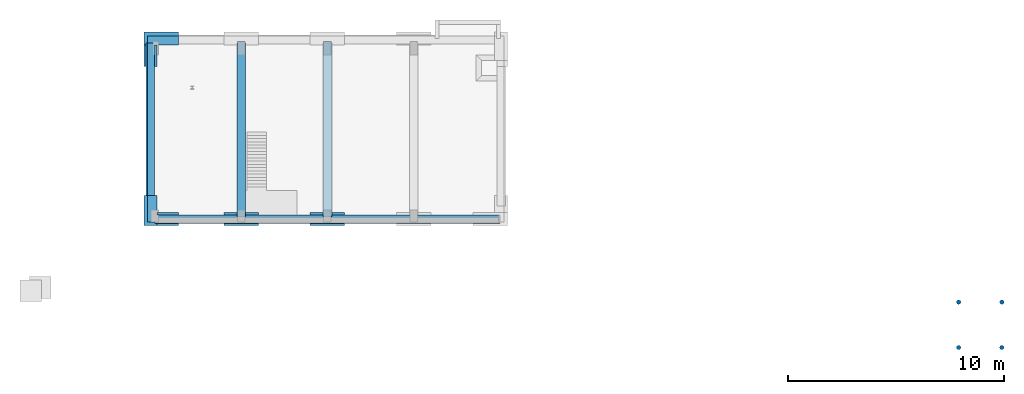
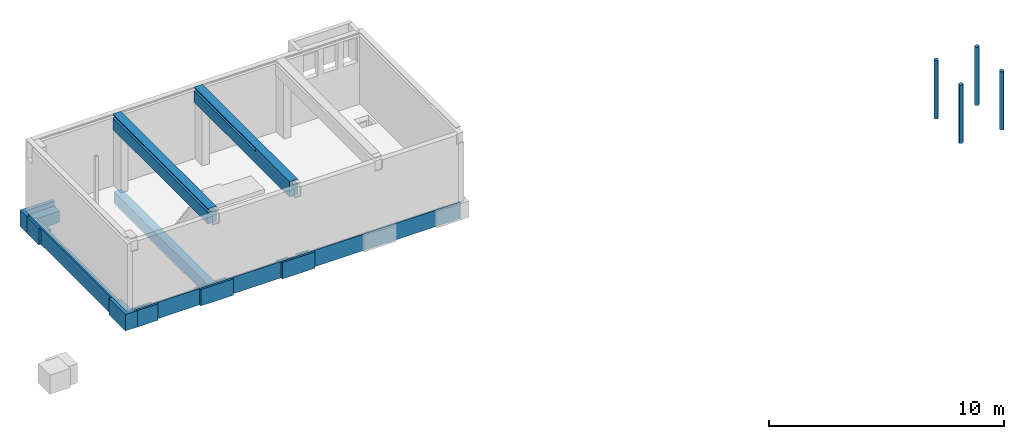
# One storey, part 2 of 5: 11 beams, 4 columns.
"""IFC2X3 building model written with IfcOpenShell, lengths in millimetres."""

from ifc_helpers import new_model, entity, si_unit, converted_unit, derived_unit, money_unit, direction, frame, origin_with_axes, place, context, subcontext, project, spatial, faceted_brep, material, type_object, element, save


model = new_model("IFC2X3")

# Units and contexts
model_context = context("Model", 3, precision=0.01, world=origin_with_axes(), true_north=direction((0.0, 1.0)))
body_context = subcontext(model_context, "Body", "Model", "MODEL_VIEW")
ifc_project = project(units=[si_unit("LENGTHUNIT", "METRE", prefix="MILLI"), si_unit("AREAUNIT", "SQUARE_METRE"), si_unit("VOLUMEUNIT", "CUBIC_METRE"), converted_unit("PLANEANGLEUNIT", "DEGREE", entity("IfcPlaneAngleMeasure", 0.0174532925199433), si_unit("PLANEANGLEUNIT", "RADIAN"), dimensions=[0, 0, 0, 0, 0, 0, 0]), money_unit("EUR"), converted_unit("TIMEUNIT", "Year", entity("IfcTimeMeasure", 31557600.0), si_unit("TIMEUNIT", "SECOND"), dimensions=[0, 0, 1, 0, 0, 0, 0]), si_unit("MASSUNIT", "GRAM", prefix="KILO"), si_unit("THERMODYNAMICTEMPERATUREUNIT", "DEGREE_CELSIUS"), si_unit("LUMINOUSINTENSITYUNIT", "LUMEN"), si_unit("ENERGYUNIT", "JOULE", prefix="MEGA"), derived_unit("THERMALCONDUCTANCEUNIT", [(si_unit("POWERUNIT", "WATT"), 1), (si_unit("LENGTHUNIT", "METRE"), -1), (si_unit("THERMODYNAMICTEMPERATUREUNIT", "KELVIN"), -1)]), derived_unit("SPECIFICHEATCAPACITYUNIT", [(si_unit("ENERGYUNIT", "JOULE"), 1), (si_unit("MASSUNIT", "GRAM", prefix="KILO"), -1), (si_unit("THERMODYNAMICTEMPERATUREUNIT", "KELVIN"), -1)]), derived_unit("MASSDENSITYUNIT", [(si_unit("MASSUNIT", "GRAM", prefix="KILO"), 1), (si_unit("VOLUMEUNIT", "CUBIC_METRE"), -1)])], contexts=[model_context])

# Site, building, storey
site_placement = place(None, origin_with_axes())
site = spatial("IfcSite", under=ifc_project, at=site_placement, Name="<site naam>", CompositionType="ELEMENT")
building_placement = place(site_placement, origin_with_axes())
building = spatial("IfcBuilding", under=site, at=building_placement, Name="<Naam gebouw>", CompositionType="ELEMENT")
storey_placement = place(building_placement, frame((0.0, 0.0, -3730.0), z_axis=(0.0, 0.0, 1.0), x_axis=(1.0, 0.0, 0.0)))
storey = spatial("IfcBuildingStorey", under=building, at=storey_placement, Name="Kelder", CompositionType="ELEMENT", Elevation=-3730.0)

# Columns
ifc_material_1 = material(Name="betonblok C")
column_type = type_object("IfcColumnType", Name="betonblok C D200", PredefinedType="COLUMN")
column_1_placement = place(storey_placement, frame((49251.00000000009, 8000.000000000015, -849.9808156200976), z_axis=(0.0, 0.0, 1.0), x_axis=(1.0, 0.0, 0.0)))
element("IfcColumn", 1, at=column_1_placement, inside=storey, type_object=column_type, material=ifc_material_1, Name="28_Kolom_betonblok", ObjectType="COLUMN", context=body_context, shape_type="Brep", body=[
    faceted_brep([(-96.59258262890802, -25.88190451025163, 3029.980815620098), (-100.0000000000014, 0.0, 3029.980815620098), (-100.0000000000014, 0.0, 0.0), (-96.59258262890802, -25.88190451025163, 0.0), (-86.6025403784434, 50.00000000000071, 3029.980815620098), (-96.59258262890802, 25.88190451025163, 3029.980815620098), (-86.6025403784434, -49.99999999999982, 3029.980815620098), (-70.71067811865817, -70.71067811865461, 3029.980815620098), (-49.99999999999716, -86.6025403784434, 3029.980815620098), (-25.88190451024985, -96.59258262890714, 3029.980815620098), (0.0, -99.99999999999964, 3029.980815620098), (25.88190451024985, -96.59258262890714, 3029.980815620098), (49.99999999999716, -86.60254037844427, 3029.980815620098), (70.71067811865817, -70.71067811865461, 3029.980815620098), (86.6025403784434, -49.99999999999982, 3029.980815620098), (96.59258262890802, -25.88190451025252, 3029.980815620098), (100.0000000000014, 0.0, 3029.980815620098), (96.59258262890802, 25.88190451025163, 3029.980815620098), (86.6025403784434, 50.00000000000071, 3029.980815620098), (70.71067811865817, 70.71067811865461, 3029.980815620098), (49.99999999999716, 86.6025403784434, 3029.980815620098), (25.88190451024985, 96.59258262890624, 3029.980815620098), (0.0, 99.99999999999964, 3029.980815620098), (-25.88190451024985, 96.59258262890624, 3029.980815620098), (-49.99999999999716, 86.6025403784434, 3029.980815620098), (-70.71067811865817, 70.71067811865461, 3029.980815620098), (-96.59258262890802, 25.88190451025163, 0.0), (-86.6025403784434, -49.99999999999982, 0.0), (-86.6025403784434, 50.00000000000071, 0.0), (-70.71067811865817, 70.71067811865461, 0.0), (-49.99999999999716, 86.6025403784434, 0.0), (-25.88190451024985, 96.59258262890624, 0.0), (0.0, 99.99999999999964, 0.0), (25.88190451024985, 96.59258262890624, 0.0), (49.99999999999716, 86.6025403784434, 0.0), (70.71067811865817, 70.71067811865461, 0.0), (86.6025403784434, 50.00000000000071, 0.0), (96.59258262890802, 25.88190451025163, 0.0), (100.0000000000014, 0.0, 0.0), (96.59258262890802, -25.88190451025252, 0.0), (86.6025403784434, -49.99999999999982, 0.0), (70.71067811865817, -70.71067811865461, 0.0), (49.99999999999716, -86.60254037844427, 0.0), (25.88190451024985, -96.59258262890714, 0.0), (0.0, -99.99999999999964, 0.0), (-25.88190451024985, -96.59258262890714, 0.0), (-49.99999999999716, -86.6025403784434, 0.0), (-70.71067811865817, -70.71067811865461, 0.0)], [[[0, 1, 2, 3]], [[4, 5, 1, 0, 6, 7, 8, 9, 10, 11, 12, 13, 14, 15, 16, 17, 18, 19, 20, 21, 22, 23, 24, 25]], [[1, 5, 26, 2]], [[27, 3, 2, 26, 28, 29, 30, 31, 32, 33, 34, 35, 36, 37, 38, 39, 40, 41, 42, 43, 44, 45, 46, 47]], [[6, 0, 3, 27]], [[5, 4, 28, 26]], [[7, 6, 27, 47]], [[8, 7, 47, 46]], [[9, 8, 46, 45]], [[10, 9, 45, 44]], [[11, 10, 44, 43]], [[12, 11, 43, 42]], [[13, 12, 42, 41]], [[14, 13, 41, 40]], [[15, 14, 40, 39]], [[16, 15, 39, 38]], [[17, 16, 38, 37]], [[18, 17, 37, 36]], [[19, 18, 36, 35]], [[20, 19, 35, 34]], [[21, 20, 34, 33]], [[22, 21, 33, 32]], [[23, 22, 32, 31]], [[24, 23, 31, 30]], [[25, 24, 30, 29]], [[4, 25, 29, 28]]]),
])
column_2_placement = place(storey_placement, frame((51251.00000000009, 8000.000000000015, -849.9808156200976), z_axis=(0.0, 0.0, 1.0), x_axis=(1.0, 0.0, 0.0)))
element("IfcColumn", 2, at=column_2_placement, inside=storey, type_object=column_type, material=ifc_material_1, Name="28_Kolom_betonblok", ObjectType="COLUMN", context=body_context, shape_type="Brep", body=[
    faceted_brep([(-96.59258262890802, -25.88190451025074, 3029.980815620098), (-100.0000000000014, 0.0, 3029.980815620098), (-100.0000000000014, 0.0, 0.0), (-96.59258262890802, -25.88190451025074, 0.0), (-86.6025403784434, 50.00000000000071, 3029.980815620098), (-96.59258262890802, 25.88190451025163, 3029.980815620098), (-86.6025403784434, -49.99999999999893, 3029.980815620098), (-70.71067811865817, -70.71067811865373, 3029.980815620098), (-49.99999999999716, -86.60254037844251, 3029.980815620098), (-25.88190451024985, -96.59258262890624, 3029.980815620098), (0.0, -99.99999999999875, 3029.980815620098), (25.88190451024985, -96.59258262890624, 3029.980815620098), (49.99999999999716, -86.6025403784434, 3029.980815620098), (70.71067811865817, -70.71067811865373, 3029.980815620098), (86.6025403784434, -49.99999999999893, 3029.980815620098), (96.59258262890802, -25.88190451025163, 3029.980815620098), (100.0000000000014, 0.0, 3029.980815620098), (96.59258262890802, 25.88190451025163, 3029.980815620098), (86.6025403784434, 50.00000000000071, 3029.980815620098), (70.71067811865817, 70.71067811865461, 3029.980815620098), (49.99999999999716, 86.6025403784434, 3029.980815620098), (25.88190451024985, 96.59258262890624, 3029.980815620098), (0.0, 99.99999999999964, 3029.980815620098), (-25.88190451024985, 96.59258262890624, 3029.980815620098), (-49.99999999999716, 86.6025403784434, 3029.980815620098), (-70.71067811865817, 70.71067811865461, 3029.980815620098), (-96.59258262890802, 25.88190451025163, 0.0), (-86.6025403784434, -49.99999999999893, 0.0), (-86.6025403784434, 50.00000000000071, 0.0), (-70.71067811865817, 70.71067811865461, 0.0), (-49.99999999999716, 86.6025403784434, 0.0), (-25.88190451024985, 96.59258262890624, 0.0), (0.0, 99.99999999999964, 0.0), (25.88190451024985, 96.59258262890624, 0.0), (49.99999999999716, 86.6025403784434, 0.0), (70.71067811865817, 70.71067811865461, 0.0), (86.6025403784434, 50.00000000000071, 0.0), (96.59258262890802, 25.88190451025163, 0.0), (100.0000000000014, 0.0, 0.0), (96.59258262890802, -25.88190451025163, 0.0), (86.6025403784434, -49.99999999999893, 0.0), (70.71067811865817, -70.71067811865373, 0.0), (49.99999999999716, -86.6025403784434, 0.0), (25.88190451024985, -96.59258262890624, 0.0), (0.0, -99.99999999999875, 0.0), (-25.88190451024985, -96.59258262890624, 0.0), (-49.99999999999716, -86.60254037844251, 0.0), (-70.71067811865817, -70.71067811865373, 0.0)], [[[0, 1, 2, 3]], [[4, 5, 1, 0, 6, 7, 8, 9, 10, 11, 12, 13, 14, 15, 16, 17, 18, 19, 20, 21, 22, 23, 24, 25]], [[1, 5, 26, 2]], [[27, 3, 2, 26, 28, 29, 30, 31, 32, 33, 34, 35, 36, 37, 38, 39, 40, 41, 42, 43, 44, 45, 46, 47]], [[6, 0, 3, 27]], [[5, 4, 28, 26]], [[7, 6, 27, 47]], [[8, 7, 47, 46]], [[9, 8, 46, 45]], [[10, 9, 45, 44]], [[11, 10, 44, 43]], [[12, 11, 43, 42]], [[13, 12, 42, 41]], [[14, 13, 41, 40]], [[15, 14, 40, 39]], [[16, 15, 39, 38]], [[17, 16, 38, 37]], [[18, 17, 37, 36]], [[19, 18, 36, 35]], [[20, 19, 35, 34]], [[21, 20, 34, 33]], [[22, 21, 33, 32]], [[23, 22, 32, 31]], [[24, 23, 31, 30]], [[25, 24, 30, 29]], [[4, 25, 29, 28]]]),
])
column_3_placement = place(storey_placement, frame((49251.00000000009, 5898.000000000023, -849.9808156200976), z_axis=(0.0, 0.0, 1.0), x_axis=(1.0, 0.0, 0.0)))
element("IfcColumn", 3, at=column_3_placement, inside=storey, type_object=column_type, material=ifc_material_1, Name="28_Kolom_betonblok", ObjectType="COLUMN", context=body_context, shape_type="Brep", body=[
    faceted_brep([(-96.59258262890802, -25.88190451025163, 3029.980815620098), (-100.0000000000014, 0.0, 3029.980815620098), (-100.0000000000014, 0.0, 0.0), (-96.59258262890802, -25.88190451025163, 0.0), (-86.6025403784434, 49.99999999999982, 3029.980815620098), (-96.59258262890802, 25.88190451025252, 3029.980815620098), (-86.6025403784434, -49.99999999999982, 3029.980815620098), (-70.71067811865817, -70.71067811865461, 3029.980815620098), (-49.99999999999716, -86.6025403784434, 3029.980815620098), (-25.88190451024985, -96.59258262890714, 3029.980815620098), (0.0, -99.99999999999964, 3029.980815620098), (25.88190451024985, -96.59258262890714, 3029.980815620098), (49.99999999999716, -86.60254037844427, 3029.980815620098), (70.71067811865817, -70.71067811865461, 3029.980815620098), (86.6025403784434, -49.99999999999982, 3029.980815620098), (96.59258262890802, -25.88190451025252, 3029.980815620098), (100.0000000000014, 0.0, 3029.980815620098), (96.59258262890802, 25.88190451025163, 3029.980815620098), (86.6025403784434, 49.99999999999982, 3029.980815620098), (70.71067811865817, 70.71067811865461, 3029.980815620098), (49.99999999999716, 86.6025403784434, 3029.980815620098), (25.88190451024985, 96.59258262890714, 3029.980815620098), (0.0, 99.99999999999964, 3029.980815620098), (-25.88190451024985, 96.59258262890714, 3029.980815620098), (-49.99999999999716, 86.60254037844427, 3029.980815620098), (-70.71067811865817, 70.71067811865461, 3029.980815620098), (-96.59258262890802, 25.88190451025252, 0.0), (-86.6025403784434, -49.99999999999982, 0.0), (-86.6025403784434, 49.99999999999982, 0.0), (-70.71067811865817, 70.71067811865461, 0.0), (-49.99999999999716, 86.60254037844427, 0.0), (-25.88190451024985, 96.59258262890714, 0.0), (0.0, 99.99999999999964, 0.0), (25.88190451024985, 96.59258262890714, 0.0), (49.99999999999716, 86.6025403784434, 0.0), (70.71067811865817, 70.71067811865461, 0.0), (86.6025403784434, 49.99999999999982, 0.0), (96.59258262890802, 25.88190451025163, 0.0), (100.0000000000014, 0.0, 0.0), (96.59258262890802, -25.88190451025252, 0.0), (86.6025403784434, -49.99999999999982, 0.0), (70.71067811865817, -70.71067811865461, 0.0), (49.99999999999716, -86.60254037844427, 0.0), (25.88190451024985, -96.59258262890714, 0.0), (0.0, -99.99999999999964, 0.0), (-25.88190451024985, -96.59258262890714, 0.0), (-49.99999999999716, -86.6025403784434, 0.0), (-70.71067811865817, -70.71067811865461, 0.0)], [[[0, 1, 2, 3]], [[4, 5, 1, 0, 6, 7, 8, 9, 10, 11, 12, 13, 14, 15, 16, 17, 18, 19, 20, 21, 22, 23, 24, 25]], [[1, 5, 26, 2]], [[27, 3, 2, 26, 28, 29, 30, 31, 32, 33, 34, 35, 36, 37, 38, 39, 40, 41, 42, 43, 44, 45, 46, 47]], [[6, 0, 3, 27]], [[5, 4, 28, 26]], [[7, 6, 27, 47]], [[8, 7, 47, 46]], [[9, 8, 46, 45]], [[10, 9, 45, 44]], [[11, 10, 44, 43]], [[12, 11, 43, 42]], [[13, 12, 42, 41]], [[14, 13, 41, 40]], [[15, 14, 40, 39]], [[16, 15, 39, 38]], [[17, 16, 38, 37]], [[18, 17, 37, 36]], [[19, 18, 36, 35]], [[20, 19, 35, 34]], [[21, 20, 34, 33]], [[22, 21, 33, 32]], [[23, 22, 32, 31]], [[24, 23, 31, 30]], [[25, 24, 30, 29]], [[4, 25, 29, 28]]]),
])
column_4_placement = place(storey_placement, frame((51251.00000000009, 5898.000000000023, -849.9808156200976), z_axis=(0.0, 0.0, 1.0), x_axis=(1.0, 0.0, 0.0)))
element("IfcColumn", 4, at=column_4_placement, inside=storey, type_object=column_type, material=ifc_material_1, Name="28_Kolom_betonblok", ObjectType="COLUMN", context=body_context, shape_type="Brep", body=[
    faceted_brep([(-96.59258262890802, -25.88190451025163, 3029.980815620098), (-100.0000000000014, 0.0, 3029.980815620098), (-100.0000000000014, 0.0, 0.0), (-96.59258262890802, -25.88190451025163, 0.0), (-86.6025403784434, 49.99999999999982, 3029.980815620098), (-96.59258262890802, 25.88190451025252, 3029.980815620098), (-86.6025403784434, -49.99999999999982, 3029.980815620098), (-70.71067811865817, -70.71067811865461, 3029.980815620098), (-49.99999999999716, -86.6025403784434, 3029.980815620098), (-25.88190451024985, -96.59258262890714, 3029.980815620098), (0.0, -99.99999999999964, 3029.980815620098), (25.88190451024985, -96.59258262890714, 3029.980815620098), (49.99999999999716, -86.60254037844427, 3029.980815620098), (70.71067811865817, -70.71067811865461, 3029.980815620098), (86.6025403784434, -49.99999999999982, 3029.980815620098), (96.59258262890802, -25.88190451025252, 3029.980815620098), (100.0000000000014, 0.0, 3029.980815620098), (96.59258262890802, 25.88190451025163, 3029.980815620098), (86.6025403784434, 49.99999999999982, 3029.980815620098), (70.71067811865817, 70.71067811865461, 3029.980815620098), (49.99999999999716, 86.6025403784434, 3029.980815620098), (25.88190451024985, 96.59258262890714, 3029.980815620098), (0.0, 99.99999999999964, 3029.980815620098), (-25.88190451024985, 96.59258262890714, 3029.980815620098), (-49.99999999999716, 86.60254037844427, 3029.980815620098), (-70.71067811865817, 70.71067811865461, 3029.980815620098), (-96.59258262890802, 25.88190451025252, 0.0), (-86.6025403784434, -49.99999999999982, 0.0), (-86.6025403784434, 49.99999999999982, 0.0), (-70.71067811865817, 70.71067811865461, 0.0), (-49.99999999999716, 86.60254037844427, 0.0), (-25.88190451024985, 96.59258262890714, 0.0), (0.0, 99.99999999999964, 0.0), (25.88190451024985, 96.59258262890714, 0.0), (49.99999999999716, 86.6025403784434, 0.0), (70.71067811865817, 70.71067811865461, 0.0), (86.6025403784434, 49.99999999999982, 0.0), (96.59258262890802, 25.88190451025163, 0.0), (100.0000000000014, 0.0, 0.0), (96.59258262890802, -25.88190451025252, 0.0), (86.6025403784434, -49.99999999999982, 0.0), (70.71067811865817, -70.71067811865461, 0.0), (49.99999999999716, -86.60254037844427, 0.0), (25.88190451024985, -96.59258262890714, 0.0), (0.0, -99.99999999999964, 0.0), (-25.88190451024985, -96.59258262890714, 0.0), (-49.99999999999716, -86.6025403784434, 0.0), (-70.71067811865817, -70.71067811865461, 0.0)], [[[0, 1, 2, 3]], [[4, 5, 1, 0, 6, 7, 8, 9, 10, 11, 12, 13, 14, 15, 16, 17, 18, 19, 20, 21, 22, 23, 24, 25]], [[1, 5, 26, 2]], [[27, 3, 2, 26, 28, 29, 30, 31, 32, 33, 34, 35, 36, 37, 38, 39, 40, 41, 42, 43, 44, 45, 46, 47]], [[6, 0, 3, 27]], [[5, 4, 28, 26]], [[7, 6, 27, 47]], [[8, 7, 47, 46]], [[9, 8, 46, 45]], [[10, 9, 45, 44]], [[11, 10, 44, 43]], [[12, 11, 43, 42]], [[13, 12, 42, 41]], [[14, 13, 41, 40]], [[15, 14, 40, 39]], [[16, 15, 39, 38]], [[17, 16, 38, 37]], [[18, 17, 37, 36]], [[19, 18, 36, 35]], [[20, 19, 35, 34]], [[21, 20, 34, 33]], [[22, 21, 33, 32]], [[23, 22, 32, 31]], [[24, 23, 31, 30]], [[25, 24, 30, 29]], [[4, 25, 29, 28]]]),
])

# Beams
ifc_material_2 = material(Name="beton_gewapend C")
beam_type_1 = type_object("IfcBeamType", Name="beton_gewapend C 400 x 800", PredefinedType="BEAM")
beam_1_placement = place(storey_placement, frame((16000.00000000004, 20085.00000000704, 3730.0), z_axis=(0.0, 0.0, 1.0), x_axis=(-1.0, 0.0, 0.0)))
element("IfcBeam", 5, at=beam_1_placement, inside=storey, type_object=beam_type_1, material=ifc_material_2, Name="28_Balk_beton_gewapend", ObjectType="BEAM", context=body_context, shape_type="Brep", body=[
    faceted_brep([(-199.9999999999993, 0.0, -200.0), (-199.9999999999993, 5219.478274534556, -200.0), (-199.9999999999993, 5219.478274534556, -50.00000000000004), (-199.9999999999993, 0.0, -50.00000000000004), (-199.9999999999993, 0.0, 0.0), (-199.9999999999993, 8110.00000000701, 0.0), (-199.9999999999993, 8110.00000000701, -799.9999999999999), (-199.9999999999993, 0.0, -799.9999999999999), (-44.99999903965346, 5219.457931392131, -200.0), (199.9999999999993, 0.0, -199.9999999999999), (199.9999999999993, 8110.00000000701, -199.9999999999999), (-44.99999903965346, 8110.00000000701, -200.0), (-44.99999903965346, 5219.457931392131, -50.00000000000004), (199.9999999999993, 8110.00000000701, -50.00000000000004), (199.9999999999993, 0.0, -50.00000000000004), (-44.99999903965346, 8110.00000000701, -50.00000000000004), (199.9999999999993, 0.0, 0.0), (199.9999999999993, 8110.00000000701, 0.0), (199.9999999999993, 8110.00000000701, -799.9999999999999), (199.9999999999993, 0.0, -799.9999999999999)], [[[0, 1, 2, 3, 4, 5, 6, 7]], [[8, 1, 0, 9, 10, 11]], [[12, 2, 1, 8]], [[13, 14, 3, 2, 12, 15]], [[4, 3, 14, 16]], [[4, 16, 17, 5]], [[15, 11, 10, 18, 6, 5, 17, 13]], [[19, 7, 6, 18]], [[19, 9, 0, 7]], [[18, 10, 9, 19]], [[8, 11, 15, 12]], [[16, 14, 13, 17]]]),
])
beam_2_placement = place(storey_placement, frame((20000.00000000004, 20085.00000000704, 3730.0), z_axis=(0.0, 0.0, 1.0), x_axis=(-1.0, 0.0, 0.0)))
element("IfcBeam", 6, at=beam_2_placement, inside=storey, type_object=beam_type_1, material=ifc_material_2, Name="28_Balk_beton_gewapend", ObjectType="BEAM", context=body_context, shape_type="Brep", body=[
    faceted_brep([(-199.9999999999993, 8110.00000000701, 0.0), (-199.9999999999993, 8110.00000000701, -50.00000000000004), (-199.9999999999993, 0.0, -50.00000000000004), (-199.9999999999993, 0.0, 0.0), (50.0157554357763, 8110.00000000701, -200.0), (50.0157554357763, 8110.00000000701, -50.00000000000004), (199.9999999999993, 8110.00000000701, 0.0), (199.9999999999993, 8110.00000000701, -799.9999999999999), (-199.9999999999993, 8110.00000000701, -799.9999999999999), (-199.9999999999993, 8110.00000000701, -200.0), (199.9999999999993, 5219.950760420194, -50.00000000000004), (199.9999999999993, 0.0, -50.00000000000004), (50.01574909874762, 5219.970445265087, -50.00000000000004), (199.9999999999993, 0.0, 0.0), (50.01574909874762, 5219.970445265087, -200.0), (199.9999999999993, 5219.950760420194, -200.0), (199.9999999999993, 0.0, -199.9999999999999), (199.9999999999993, 0.0, -799.9999999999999), (-199.9999999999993, 0.0, -799.9999999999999), (-199.9999999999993, 0.0, -200.0)], [[[0, 1, 2, 3]], [[4, 5, 1, 0, 6, 7, 8, 9]], [[10, 11, 2, 1, 5, 12]], [[3, 2, 11, 13]], [[3, 13, 6, 0]], [[12, 5, 4, 14]], [[10, 15, 16, 17, 7, 6, 13, 11]], [[17, 18, 8, 7]], [[18, 19, 9, 8]], [[4, 9, 19, 16, 15, 14]], [[14, 15, 10, 12]], [[17, 16, 19, 18]]]),
])
beam_type_2 = type_object("IfcBeamType", Name="beton_gewapend C 600 x 850", PredefinedType="BEAM")
beam_3_placement = place(storey_placement, frame((11790.00000000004, 11550.00000000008, 0.0), z_axis=(0.0, 0.0, 1.0), x_axis=(1.0, 0.0, 0.0)))
element("IfcBeam", 7, at=beam_3_placement, inside=storey, type_object=beam_type_2, material=ifc_material_2, Name="28_Balk_beton_gewapend", ObjectType="BEAM", context=body_context, shape_type="Brep", body=[
    faceted_brep([(-300.0000000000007, 1400.00000000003, 0.0), (-125.0000000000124, 1400.00000000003, 0.0), (-125.0000000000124, 1400.00000000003, -250.0), (300.0000000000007, 1400.00000000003, -250.0), (300.0000000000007, 1400.00000000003, -850.0000000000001), (-300.0000000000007, 1400.00000000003, -850.0000000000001), (210.0000000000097, 174.9999999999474, 0.0), (-125.0000000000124, 174.9999999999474, 0.0), (-300.0000000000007, 0.0, 0.0), (300.0000000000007, 0.0, 0.0), (300.0000000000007, 99.9999999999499, 0.0), (210.0000000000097, 99.9999999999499, 0.0), (-125.0000000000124, 174.9999999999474, -250.0), (210.0000000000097, 499.9999999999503, -250.0), (300.0000000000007, 499.9999999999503, -250.0), (210.0000000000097, 174.9999999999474, -250.0), (300.0000000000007, 499.9999999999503, -850.0000000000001), (210.0000000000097, 499.9999999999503, -850.0000000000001), (210.0000000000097, 99.9999999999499, -850.0000000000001), (300.0000000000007, 99.9999999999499, -850.0000000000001), (300.0000000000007, 0.0, -850.0000000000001), (-300.0000000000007, 0.0, -850.0000000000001)], [[[0, 1, 2, 3, 4, 5]], [[6, 7, 1, 0, 8, 9, 10, 11]], [[12, 2, 1, 7]], [[13, 14, 3, 2, 12, 15]], [[4, 3, 14, 16]], [[16, 17, 18, 19, 20, 21, 5, 4]], [[5, 21, 8, 0]], [[12, 7, 6, 15]], [[20, 9, 8, 21]], [[9, 20, 19, 10]], [[19, 18, 11, 10]], [[13, 15, 6, 11, 18, 17]], [[16, 14, 13, 17]]]),
])
beam_type_3 = type_object("IfcBeamType", Name="beton_gewapend C 1600 x 850", PredefinedType="BEAM")
beam_4_placement = place(storey_placement, frame((12290.00000000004, 11550.00000000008, 0.0), z_axis=(0.0, 0.0, 1.0), x_axis=(1.0, 0.0, 0.0)))
element("IfcBeam", 8, at=beam_4_placement, inside=storey, type_object=beam_type_3, material=ifc_material_2, Name="28_Balk_beton_gewapend", ObjectType="BEAM", context=body_context, shape_type="Brep", body=[
    faceted_brep([(-199.9999999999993, 599.9999999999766, -850.0000000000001), (-199.9999999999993, 599.9999999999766, -250.0), (800.0000000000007, 599.9999999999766, -250.0), (800.0000000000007, 599.9999999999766, -850.0000000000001), (-199.9999999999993, 499.9999999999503, -850.0000000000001), (-199.9999999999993, 499.9999999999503, -250.0), (799.999999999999, 499.9999999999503, -250.0), (799.999999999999, 499.9999999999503, -850.0000000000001)], [[[0, 1, 2, 3]], [[4, 5, 1, 0]], [[5, 6, 2, 1]], [[3, 2, 6, 7]], [[3, 7, 4, 0]], [[7, 6, 5, 4]]]),
    faceted_brep([(800.0000000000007, 99.9999999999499, -850.0000000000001), (-199.9999999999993, 99.9999999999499, -850.0000000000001), (-199.9999999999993, 99.9999999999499, 0.0), (799.999999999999, 99.9999999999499, 0.0), (800.0000000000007, 0.0, -850.0000000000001), (-199.9999999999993, 0.0, -850.0000000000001), (-199.9999999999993, 0.0, 0.0), (800.0000000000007, 0.0, 0.0)], [[[0, 1, 2, 3]], [[4, 5, 1, 0]], [[5, 6, 2, 1]], [[3, 2, 6, 7]], [[7, 4, 0, 3]], [[7, 6, 5, 4]]]),
])
beam_5_placement = place(storey_placement, frame((12090.00000000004, 19709.99999999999, 0.0), z_axis=(0.0, 0.0, 1.0), x_axis=(0.0, 1.0, 0.0)))
element("IfcBeam", 9, at=beam_5_placement, inside=storey, type_object=beam_type_3, material=ifc_material_2, Name="28_Balk_beton_gewapend", ObjectType="BEAM", context=body_context, shape_type="Brep", body=[
    faceted_brep([(200.0000000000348, 100.0000000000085, -850.0000000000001), (200.0000000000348, 100.0000000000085, -250.0), (200.0000000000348, 0.0, -250.0), (200.0000000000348, 0.0, -850.0000000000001), (-800.0000000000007, 100.0000000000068, -850.0000000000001), (-800.0000000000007, 100.0000000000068, -250.0), (-800.0000000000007, 0.0, -250.0), (-800.0000000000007, 0.0, -850.0000000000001)], [[[0, 1, 2, 3]], [[4, 5, 1, 0]], [[5, 6, 2, 1]], [[3, 2, 6, 7]], [[7, 4, 0, 3]], [[7, 6, 5, 4]]]),
    faceted_brep([(-800.0000000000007, 500.0000000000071, -850.0000000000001), (200.0000000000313, 500.0000000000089, -850.0000000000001), (200.0000000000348, 500.0000000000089, 0.0), (-800.0000000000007, 500.0000000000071, 0.0), (-800.0000000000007, 600.0000000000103, -850.0000000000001), (200.0000000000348, 599.9999999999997, -850.0000000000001), (200.0000000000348, 599.9999999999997, 0.0), (-800.0000000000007, 600.0000000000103, 0.0)], [[[0, 1, 2, 3]], [[4, 5, 1, 0]], [[5, 6, 2, 1]], [[3, 2, 6, 7]], [[7, 4, 0, 3]], [[7, 6, 5, 4]]]),
])
beam_6_placement = place(storey_placement, frame((20000.00000000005, 11550.00000000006, 0.0), z_axis=(0.0, 0.0, 1.0), x_axis=(1.0, 0.0, 0.0)))
element("IfcBeam", 10, at=beam_6_placement, inside=storey, type_object=beam_type_3, material=ifc_material_2, Name="28_Balk_beton_gewapend", ObjectType="BEAM", context=body_context, shape_type="Brep", body=[
    faceted_brep([(-800.0000000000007, 599.9999999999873, -850.0000000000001), (-800.0000000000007, 599.9999999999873, -250.0), (-200.0000000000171, 599.999999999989, -250.0), (-200.0000000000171, 599.9999999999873, -850.0000000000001), (-799.9999999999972, 499.9999999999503, -850.0000000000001), (-799.9999999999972, 499.9999999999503, -250.0), (-200.0000000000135, 499.9999999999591, -250.0), (-200.0000000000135, 499.9999999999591, -850.0000000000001)], [[[0, 1, 2, 3]], [[4, 5, 1, 0]], [[5, 6, 2, 1]], [[3, 2, 6, 7]], [[4, 0, 3, 7]], [[7, 6, 5, 4]]]),
    faceted_brep([(199.9999999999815, 599.9999999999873, -850.0000000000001), (199.9999999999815, 599.9999999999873, -250.0), (800.0000000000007, 599.9999999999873, -250.0), (800.0000000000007, 599.9999999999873, -850.0000000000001), (199.9999999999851, 499.9999999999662, -850.0000000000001), (199.9999999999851, 499.9999999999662, -250.0), (800.0000000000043, 499.9999999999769, -250.0), (800.0000000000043, 499.9999999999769, -850.0000000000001)], [[[0, 1, 2, 3]], [[4, 5, 1, 0]], [[5, 6, 2, 1]], [[3, 2, 6, 7]], [[3, 7, 4, 0]], [[7, 6, 5, 4]]]),
    faceted_brep([(800.0000000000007, 0.0, -850.0000000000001), (800.0000000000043, 99.99999999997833, -850.0000000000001), (800.0000000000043, 99.99999999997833, 0.0), (800.0000000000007, 0.0, 0.0), (-800.0000000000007, 0.0, -850.0000000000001), (-799.9999999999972, 99.9999999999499, -850.0000000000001), (-799.9999999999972, 99.9999999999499, 0.0), (-800.0000000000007, 0.0, 0.0)], [[[0, 1, 2, 3]], [[4, 5, 1, 0]], [[5, 6, 2, 1]], [[3, 2, 6, 7]], [[3, 7, 4, 0]], [[7, 6, 5, 4]]]),
])
beam_7_placement = place(storey_placement, frame((16000.00000000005, 11550.00000000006, 0.0), z_axis=(0.0, 0.0, 1.0), x_axis=(1.0, 0.0, 0.0)))
element("IfcBeam", 11, at=beam_7_placement, inside=storey, type_object=beam_type_3, material=ifc_material_2, Name="28_Balk_beton_gewapend", ObjectType="BEAM", context=body_context, shape_type="Brep", body=[
    faceted_brep([(-800.0000000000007, 599.9999999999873, -850.0000000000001), (-800.0000000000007, 599.9999999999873, -250.0), (-200.0000000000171, 599.999999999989, -250.0), (-200.0000000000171, 599.9999999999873, -850.0000000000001), (-800.0000000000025, 499.9999999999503, -850.0000000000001), (-800.0000000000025, 499.9999999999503, -250.0), (-200.0000000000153, 499.9999999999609, -250.0), (-200.0000000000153, 499.9999999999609, -850.0000000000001)], [[[0, 1, 2, 3]], [[4, 5, 1, 0]], [[5, 6, 2, 1]], [[3, 2, 6, 7]], [[4, 0, 3, 7]], [[7, 6, 5, 4]]]),
    faceted_brep([(199.9999999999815, 599.9999999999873, -850.0000000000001), (199.9999999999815, 599.9999999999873, -250.0), (800.0000000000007, 599.9999999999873, -250.0), (800.0000000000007, 599.9999999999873, -850.0000000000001), (199.9999999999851, 499.9999999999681, -850.0000000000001), (199.9999999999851, 499.9999999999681, -250.0), (800.0000000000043, 499.9999999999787, -250.0), (800.0000000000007, 499.9999999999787, -850.0000000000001)], [[[0, 1, 2, 3]], [[4, 5, 1, 0]], [[5, 6, 2, 1]], [[3, 2, 6, 7]], [[3, 7, 4, 0]], [[7, 6, 5, 4]]]),
    faceted_brep([(800.0000000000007, 0.0, -850.0000000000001), (800.0000000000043, 99.99999999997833, -850.0000000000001), (800.0000000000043, 99.99999999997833, 0.0), (800.0000000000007, 0.0, 0.0), (-800.0000000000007, 0.0, -850.0000000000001), (-800.0000000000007, 99.9999999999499, -850.0000000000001), (-800.0000000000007, 99.9999999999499, 0.0), (-800.0000000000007, 0.0, 0.0)], [[[0, 1, 2, 3]], [[4, 5, 1, 0]], [[5, 6, 2, 1]], [[3, 2, 6, 7]], [[3, 7, 4, 0]], [[7, 6, 5, 4]]]),
])
beam_8_placement = place(storey_placement, frame((12290.00000000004, 19910.00000000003, 0.0), z_axis=(0.0, 0.0, 1.0), x_axis=(1.0, 0.0, 0.0)))
element("IfcBeam", 12, at=beam_8_placement, inside=storey, type_object=beam_type_3, material=ifc_material_2, Name="28_Balk_beton_gewapend", ObjectType="BEAM", context=body_context, shape_type="Brep", body=[
    faceted_brep([(-700.00000000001, 89.99999999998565, 0.0), (-625.0000000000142, 89.99999999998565, 0.0), (-625.0000000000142, 424.9999999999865, 0.0), (800.0000000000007, 424.9999999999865, 0.0), (800.0000000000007, 599.9999999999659, 0.0), (-800.0000000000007, 599.9999999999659, 0.0), (-800.0000000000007, 0.0, 0.0), (-700.00000000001, 0.0, 0.0), (-300.0000000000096, 89.99999999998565, -250.0), (-625.0000000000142, 89.99999999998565, -250.0), (-700.00000000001, 89.99999999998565, -850.0000000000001), (-300.0000000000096, 89.99999999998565, -850.0000000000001), (-625.0000000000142, 424.9999999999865, -250.0), (800.0000000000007, 424.9999999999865, -250.0), (800.0000000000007, 0.0, -250.0), (800.0000000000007, 0.0, -850.0000000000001), (800.0000000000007, 599.9999999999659, -850.0000000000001), (-800.0000000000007, 599.9999999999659, -850.0000000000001), (-800.0000000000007, 0.0, -850.0000000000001), (-700.00000000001, 0.0, -850.0000000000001), (-300.0000000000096, 0.0, -250.0), (-300.0000000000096, 0.0, -850.0000000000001)], [[[0, 1, 2, 3, 4, 5, 6, 7]], [[8, 9, 1, 0, 10, 11]], [[12, 2, 1, 9]], [[12, 13, 3, 2]], [[3, 13, 14, 15, 16, 4]], [[5, 4, 16, 17]], [[17, 18, 6, 5]], [[6, 18, 19, 7]], [[19, 10, 0, 7]], [[20, 14, 13, 12, 9, 8]], [[21, 11, 10, 19, 18, 17, 16, 15]], [[21, 20, 8, 11]], [[15, 14, 20, 21]]]),
])
beam_type_4 = type_object("IfcBeamType", Name="beton_gewapend C 400 x 850", PredefinedType="BEAM")
beam_9_placement = place(storey_placement, frame((16000.00000000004, 12000.00000000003, 0.0), z_axis=(0.0, 0.0, 1.0), x_axis=(1.0, 0.0, 0.0)))
element("IfcBeam", 13, at=beam_9_placement, inside=storey, type_object=beam_type_4, material=ifc_material_2, Name="28_Balk_beton_gewapend", ObjectType="BEAM", context=body_context, shape_type="Brep", body=[
    faceted_brep([(-200.0000000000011, 7999.999999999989, -850.0000000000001), (-200.0000000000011, 7999.999999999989, -250.0), (199.9999999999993, 7999.999999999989, -250.0), (199.9999999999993, 7999.999999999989, -850.0000000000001), (-200.0000000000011, 50.00000000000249, -850.0000000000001), (-200.0000000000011, 50.00000000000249, -250.0), (199.9999999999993, 50.00000000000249, -250.0), (199.9999999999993, 50.00000000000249, -850.0000000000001)], [[[0, 1, 2, 3]], [[4, 5, 1, 0]], [[5, 6, 2, 1]], [[3, 2, 6, 7]], [[7, 4, 0, 3]], [[7, 6, 5, 4]]]),
])
beam_10_placement = place(storey_placement, frame((11790.00000000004, 12950.00000000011, 0.0), z_axis=(0.0, 0.0, 1.0), x_axis=(1.0, 0.0, 0.0)))
element("IfcBeam", 14, at=beam_10_placement, inside=storey, type_object=beam_type_4, material=ifc_material_2, Name="28_Balk_beton_gewapend", ObjectType="BEAM", context=body_context, shape_type="Brep", body=[
    faceted_brep([(-200.0000000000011, 7049.999999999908, 0.0), (-125.0000000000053, 7049.999999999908, 0.0), (-125.0000000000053, 7049.999999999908, -250.0), (199.9999999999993, 7049.999999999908, -250.0), (199.9999999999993, 7049.999999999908, -850.0000000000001), (-200.0000000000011, 7049.999999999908, -850.0000000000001), (-199.9999999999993, 0.0, 0.0), (-125.0000000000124, 0.0, 0.0), (-125.0000000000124, 0.0, -250.0), (199.9999999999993, 0.0, -250.0), (199.9999999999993, 0.0, -850.0000000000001), (-199.9999999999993, 0.0, -850.0000000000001)], [[[0, 1, 2, 3, 4, 5]], [[6, 7, 1, 0]], [[8, 2, 1, 7]], [[8, 9, 3, 2]], [[4, 3, 9, 10]], [[10, 11, 5, 4]], [[11, 6, 0, 5]], [[9, 8, 7, 6, 11, 10]]]),
])
beam_11_placement = place(storey_placement, frame((28000.01946356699, 11850.00000000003, 0.0), z_axis=(0.0, 0.0, 1.0), x_axis=(0.0, 1.0, 0.0)))
element("IfcBeam", 15, at=beam_11_placement, inside=storey, type_object=beam_type_4, material=ifc_material_2, Name="28_Balk_beton_gewapend", ObjectType="BEAM", context=body_context, shape_type="Brep", body=[
    faceted_brep([(199.9999999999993, 16000.01946356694, -850.0000000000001), (199.9999999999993, 16000.01946356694, -250.0), (199.9999999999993, 0.0, -250.0), (199.9999999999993, 0.0, -850.0000000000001), (-125.0000000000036, 16000.01946356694, 0.0), (-125.0000000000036, 16000.01946356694, -250.0), (-200.0000000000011, 16000.01946356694, -850.0000000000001), (-200.0000000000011, 16000.01946356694, 0.0), (-125.0000000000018, 0.0, -250.0), (-125.0000000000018, 0.0, 0.0), (-199.9999999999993, 0.0, 0.0), (-199.9999999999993, 0.0, -850.0000000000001)], [[[0, 1, 2, 3]], [[4, 5, 1, 0, 6, 7]], [[5, 8, 2, 1]], [[2, 8, 9, 10, 11, 3]], [[3, 11, 6, 0]], [[5, 4, 9, 8]], [[11, 10, 7, 6]], [[10, 9, 4, 7]]]),
])

save(model, "model.ifc")
